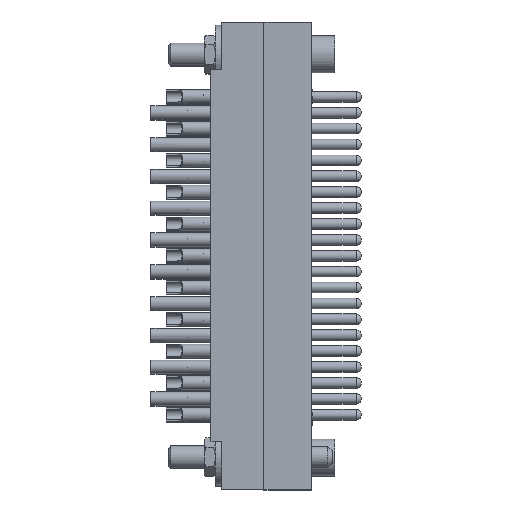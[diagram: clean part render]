
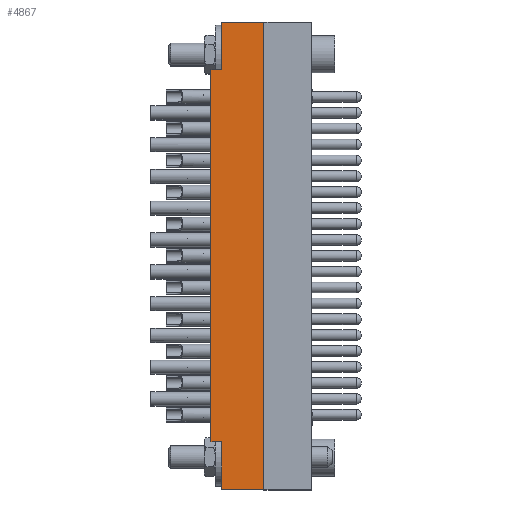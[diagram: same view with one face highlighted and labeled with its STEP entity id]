
A CAD part, top view. The second image highlights one B-rep face of the part: STEP entity #4867.
In plain terms, the highlighted planar face has unit normal (0, 0, 1) as drawn and (-1, 0, 0) by its records, which use the part's own axes.
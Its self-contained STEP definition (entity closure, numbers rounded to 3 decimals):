
#4867=ADVANCED_FACE('',(#10161),#10162,.F.);
#10161=FACE_OUTER_BOUND('',#15892,.T.);
#10162=PLANE('',#15893);
#15892=EDGE_LOOP('',(#25983,#25984,#25985,#25986,#25987,#25988,#25989,#25990));
#15893=AXIS2_PLACEMENT_3D('',#25991,#25992,#25993);
#25983=ORIENTED_EDGE('',*,*,#34879,.F.);
#25984=ORIENTED_EDGE('',*,*,#34867,.F.);
#25985=ORIENTED_EDGE('',*,*,#34832,.F.);
#25986=ORIENTED_EDGE('',*,*,#34870,.T.);
#25987=ORIENTED_EDGE('',*,*,#34880,.F.);
#25988=ORIENTED_EDGE('',*,*,#34881,.T.);
#25989=ORIENTED_EDGE('',*,*,#34882,.T.);
#25990=ORIENTED_EDGE('',*,*,#34883,.F.);
#25991=CARTESIAN_POINT('',(5.341,13.4,4.809));
#25992=DIRECTION('',(1.0,0.0,0.0));
#25993=DIRECTION('',(0.0,0.0,-1.0));
#34832=EDGE_CURVE('',#41742,#41743,#41744,.T.);
#34867=EDGE_CURVE('',#41743,#41795,#41798,.T.);
#34870=EDGE_CURVE('',#41742,#41800,#41803,.T.);
#34879=EDGE_CURVE('',#41795,#41816,#41817,.T.);
#34880=EDGE_CURVE('',#41818,#41800,#41819,.T.);
#34881=EDGE_CURVE('',#41818,#41820,#41821,.T.);
#34882=EDGE_CURVE('',#41820,#41822,#41823,.T.);
#34883=EDGE_CURVE('',#41816,#41822,#41824,.T.);
#41742=VERTEX_POINT('',#53057);
#41743=VERTEX_POINT('',#53058);
#41744=LINE('',#53059,#53060);
#41795=VERTEX_POINT('',#53216);
#41798=LINE('',#53221,#53222);
#41800=VERTEX_POINT('',#53224);
#41803=LINE('',#53228,#53229);
#41816=VERTEX_POINT('',#53248);
#41817=LINE('',#53249,#53250);
#41818=VERTEX_POINT('',#53251);
#41819=LINE('',#53252,#53253);
#41820=VERTEX_POINT('',#53254);
#41821=LINE('',#53255,#53256);
#41822=VERTEX_POINT('',#53257);
#41823=LINE('',#53258,#53259);
#41824=LINE('',#53260,#53261);
#53057=CARTESIAN_POINT('',(5.341,13.4,4.809));
#53058=CARTESIAN_POINT('',(5.341,-30.7,4.809));
#53059=CARTESIAN_POINT('',(5.341,13.4,4.809));
#53060=VECTOR('',#61469,1.0);
#53216=CARTESIAN_POINT('',(5.341,-30.7,0.809));
#53221=CARTESIAN_POINT('',(5.341,-30.7,4.809));
#53222=VECTOR('',#61502,1.0);
#53224=CARTESIAN_POINT('',(5.341,13.4,0.809));
#53228=CARTESIAN_POINT('',(5.341,13.4,4.809));
#53229=VECTOR('',#61504,1.0);
#53248=CARTESIAN_POINT('',(5.341,-26.2,0.809));
#53249=CARTESIAN_POINT('',(5.341,-30.7,0.809));
#53250=VECTOR('',#61511,1.0);
#53251=CARTESIAN_POINT('',(5.341,8.9,0.809));
#53252=CARTESIAN_POINT('',(5.341,8.9,0.809));
#53253=VECTOR('',#61512,1.0);
#53254=CARTESIAN_POINT('',(5.341,8.9,-0.191));
#53255=CARTESIAN_POINT('',(5.341,8.9,0.809));
#53256=VECTOR('',#61513,1.0);
#53257=CARTESIAN_POINT('',(5.341,-26.2,-0.191));
#53258=CARTESIAN_POINT('',(5.341,13.4,-0.191));
#53259=VECTOR('',#61514,1.0);
#53260=CARTESIAN_POINT('',(5.341,-26.2,0.809));
#53261=VECTOR('',#61515,1.0);
#61469=DIRECTION('',(0.0,-1.0,0.0));
#61502=DIRECTION('',(0.0,0.0,-1.0));
#61504=DIRECTION('',(0.0,0.0,-1.0));
#61511=DIRECTION('',(0.0,1.0,0.0));
#61512=DIRECTION('',(0.0,1.0,0.0));
#61513=DIRECTION('',(0.0,0.0,-1.0));
#61514=DIRECTION('',(0.0,-1.0,0.0));
#61515=DIRECTION('',(0.0,0.0,-1.0));
